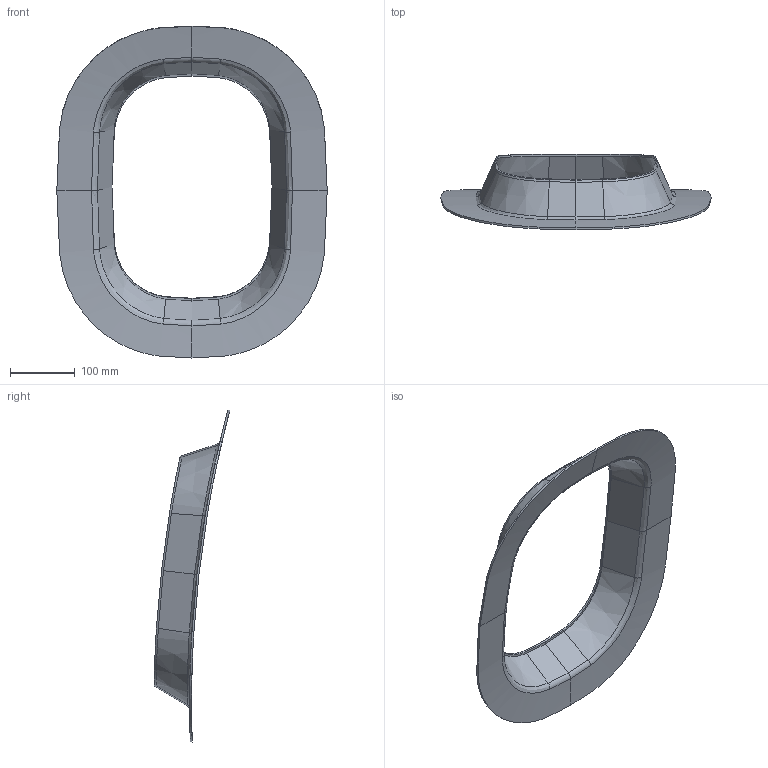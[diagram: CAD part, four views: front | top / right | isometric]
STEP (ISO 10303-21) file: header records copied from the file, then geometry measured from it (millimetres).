
FILE_DESCRIPTION(('Open CASCADE Model'),'2;1');
FILE_NAME('Open CASCADE Shape Model','2026-10-14T14:25:21',('Author'),( 'Open CASCADE'),'Open CASCADE STEP processor 7.8','Open CASCADE 7.8' ,'Unknown');
FILE_SCHEMA(('AUTOMOTIVE_DESIGN { 1 0 10303 214 1 1 1 1 }'));
Length unit declared in the file: millimetre
Products named in the file (1): Open CASCADE STEP translator 7.8 6
Bounding box: 417 x 116.89 x 512.05 mm (x, y, z)
Volume: 443798.7 mm3; surface area: 303555.8 mm2
Topology: 1 solids, 1 shells, 100 faces, 230 edges, 130 vertices
Faces by surface type: cylinder 40, cone 36, bspline 24
Entity records: 15496 total; most frequent: CARTESIAN_POINT 11751, ORIENTED_EDGE 460, PCURVE 460, DEFINITIONAL_REPRESENTATION 460, B_SPLINE_CURVE_WITH_KNOTS 414, DIRECTION 406, LINE 236, VECTOR 236
